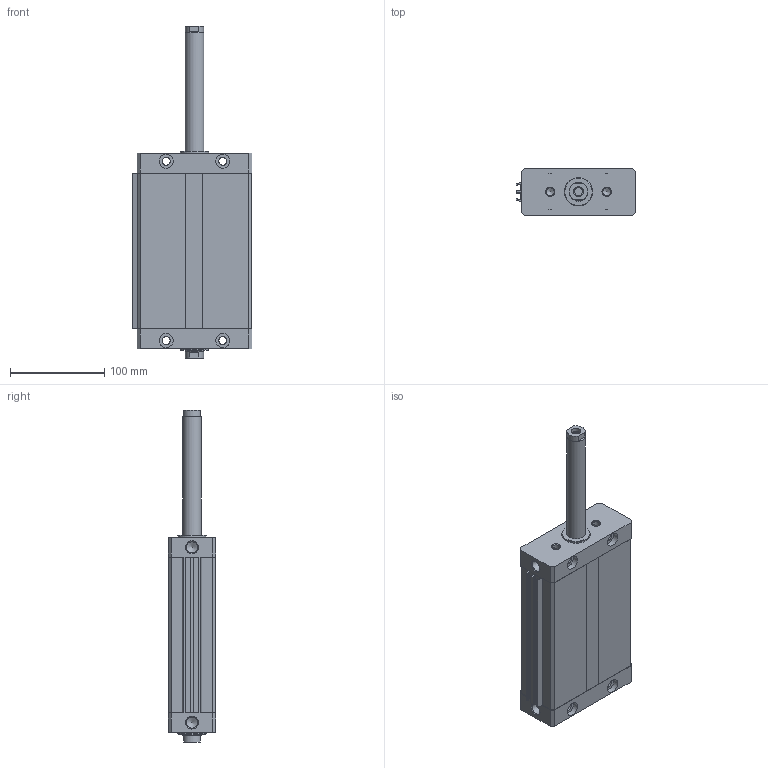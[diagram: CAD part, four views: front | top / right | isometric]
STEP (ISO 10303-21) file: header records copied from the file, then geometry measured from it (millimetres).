
FILE_DESCRIPTION((''),'2;1');
FILE_NAME('I:\Area Tecnica\Disegni\VARIE-3D\Componenti\1370 - CPO\1370_##_0000_03\1370_63_0125_03-01.iam.step','2010-12-16T11:01:24',(''),(''),'Autodesk Inventor 2011','Autodesk Inventor 2011','');
FILE_SCHEMA(('AUTOMOTIVE_DESIGN { 1 0 10303 214 1 1 1 1 }'));
Length unit declared in the file: millimetre
Products named in the file (5): 1370_63_0125_03-01; 1370_05_63_0000; 1370_06_63_0125; 1370_08_63_0000; 1370_3_63_0125
Assembly tree (4 placements, depth 2):
  1370_63_0125_03-01
    1370_05_63_0000
    1370_06_63_0125
    1370_08_63_0000
    1370_3_63_0125
Bounding box: 126.75 x 50 x 352 mm (x, y, z)
Volume: 885887.6 mm3; surface area: 196402.9 mm2
Topology: 4 solids, 4 shells, 164 faces, 398 edges, 252 vertices
Faces by surface type: plane 94, cylinder 50, cone 20
Full cylindrical faces by diameter (mm): 8.5 x20, 10.3 x2, 11.75 x2, 15 x8, 20 x4, 30 x2
Entity records: 4722 total; most frequent: DIRECTION 794, CARTESIAN_POINT 737, ORIENTED_EDGE 652, EDGE_CURVE 326, AXIS2_PLACEMENT_3D 295, EDGE_LOOP 254, VERTEX_POINT 238, VECTOR 204
